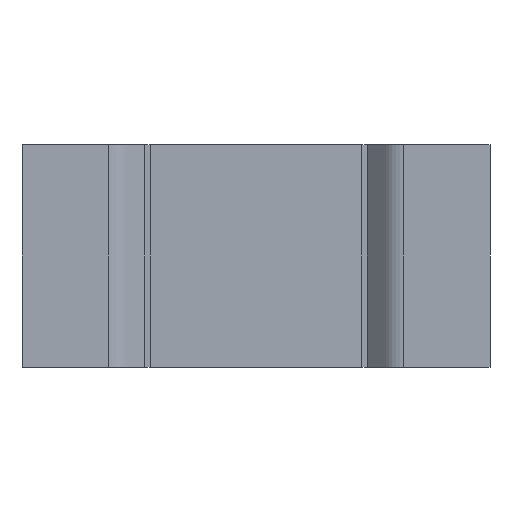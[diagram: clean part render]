
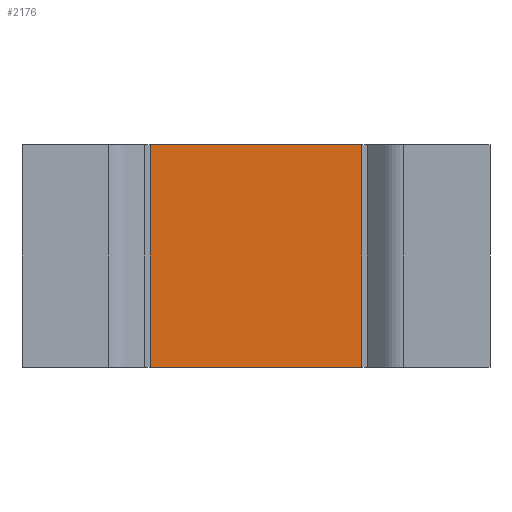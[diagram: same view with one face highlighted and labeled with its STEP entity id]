
A CAD part, front view. The second image highlights one B-rep face of the part: STEP entity #2176.
In plain terms, the highlighted planar face has unit normal (0, -1, 0).
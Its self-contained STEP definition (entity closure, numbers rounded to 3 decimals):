
#210 = VECTOR ( 'NONE', #2717, 1000. ) ;
#223 = CARTESIAN_POINT ( 'NONE',  ( -1.425, 0., 1.5 ) ) ;
#484 = LINE ( 'NONE', #4893, #210 ) ;
#486 = PLANE ( 'NONE',  #3623 ) ;
#919 = CARTESIAN_POINT ( 'NONE',  ( -1.425, 0., 1.5 ) ) ;
#970 = ORIENTED_EDGE ( 'NONE', *, *, #3174, .F. ) ;
#1195 = CARTESIAN_POINT ( 'NONE',  ( 1.425, 0., 1.5 ) ) ;
#1378 = CARTESIAN_POINT ( 'NONE',  ( -1.425, 0., 1.5 ) ) ;
#1669 = CARTESIAN_POINT ( 'NONE',  ( -1.425, 0., 1.5 ) ) ;
#1944 = CARTESIAN_POINT ( 'NONE',  ( 1.425, 0., 1.5 ) ) ;
#2050 = LINE ( 'NONE', #223, #4806 ) ;
#2176 = ADVANCED_FACE ( 'NONE', ( #4865 ), #486, .F. ) ;
#2252 = DIRECTION ( 'NONE',  ( 0., 0., 1. ) ) ;
#2327 = ORIENTED_EDGE ( 'NONE', *, *, #2992, .F. ) ;
#2519 = VECTOR ( 'NONE', #3295, 1000. ) ;
#2687 = DIRECTION ( 'NONE',  ( 0., 1., 0. ) ) ;
#2717 = DIRECTION ( 'NONE',  ( 1., 0., 0. ) ) ;
#2992 = EDGE_CURVE ( 'NONE', #3679, #4426, #3828, .T. ) ;
#3174 = EDGE_CURVE ( 'NONE', #4426, #5047, #4157, .T. ) ;
#3281 = EDGE_LOOP ( 'NONE', ( #3300, #970, #2327, #4579 ) ) ;
#3295 = DIRECTION ( 'NONE',  ( 0., 0., -1. ) ) ;
#3300 = ORIENTED_EDGE ( 'NONE', *, *, #3408, .T. ) ;
#3408 = EDGE_CURVE ( 'NONE', #5626, #5047, #484, .T. ) ;
#3480 = EDGE_CURVE ( 'NONE', #3679, #5626, #2050, .T. ) ;
#3623 = AXIS2_PLACEMENT_3D ( 'NONE', #919, #2687, #2252 ) ;
#3679 = VERTEX_POINT ( 'NONE', #1378 ) ;
#3828 = LINE ( 'NONE', #1669, #4317 ) ;
#3838 = CARTESIAN_POINT ( 'NONE',  ( -1.425, 0., -1.5 ) ) ;
#4157 = LINE ( 'NONE', #1944, #2519 ) ;
#4210 = CARTESIAN_POINT ( 'NONE',  ( 1.425, 0., -1.5 ) ) ;
#4317 = VECTOR ( 'NONE', #5142, 1000. ) ;
#4426 = VERTEX_POINT ( 'NONE', #1195 ) ;
#4579 = ORIENTED_EDGE ( 'NONE', *, *, #3480, .T. ) ;
#4605 = DIRECTION ( 'NONE',  ( 0., 0., -1. ) ) ;
#4806 = VECTOR ( 'NONE', #4605, 1000. ) ;
#4865 = FACE_OUTER_BOUND ( 'NONE', #3281, .T. ) ;
#4893 = CARTESIAN_POINT ( 'NONE',  ( -1.425, 0., -1.5 ) ) ;
#5047 = VERTEX_POINT ( 'NONE', #4210 ) ;
#5142 = DIRECTION ( 'NONE',  ( 1., 0., 0. ) ) ;
#5626 = VERTEX_POINT ( 'NONE', #3838 ) ;
